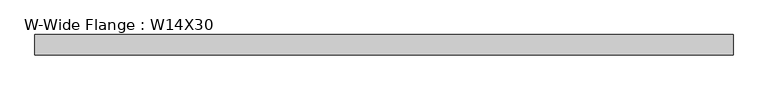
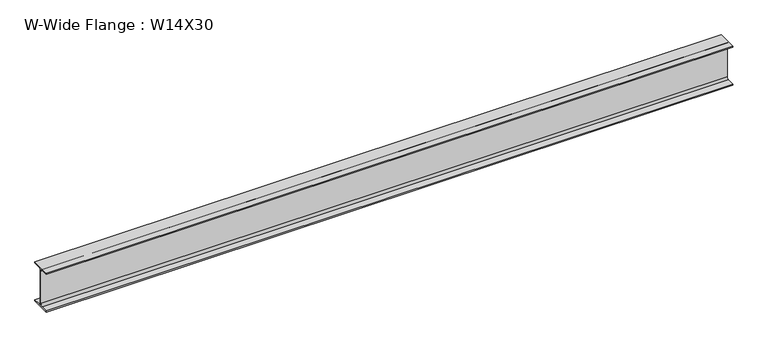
"""IFC4 building model written with IfcOpenShell, lengths in millimetres: beam geometry, W-Wide Flange : W14X30."""

from ifc_helpers import new_model, si_unit, point, frame, frame_2d, origin, place, context, project, spatial, polyline, circle_curve, trimmed, segment, composite_curve, outline, extrude, source, transform, mapped, element, save


def w_wide_flange_w14x30_12b98172(model_context):
    return source(origin(), model_context, "Body", "SweptSolid", [
        extrude(outline(composite_curve([segment(polyline([(85.471, -165.481), (85.471, -175.26), (-85.471, -175.26), (-85.471, -165.481), (-22.225, -165.481)]), True, "CONTINUOUS"), segment(trimmed(circle_curve(frame_2d((-22.225, -146.685)), 18.796), [point((-22.225, -165.481))], [point((-3.429, -146.685))], True, "CARTESIAN"), True, "CONTINUOUS"), segment(polyline([(-3.429, -146.685), (-3.429, 146.685)]), True, "CONTINUOUS"), segment(trimmed(circle_curve(frame_2d((-22.225, 146.685)), 18.796), [point((-3.429, 146.685))], [point((-22.225, 165.481))], True, "CARTESIAN"), True, "CONTINUOUS"), segment(polyline([(-22.225, 165.481), (-85.471, 165.481), (-85.471, 175.26), (85.471, 175.26), (85.471, 165.481), (22.225, 165.481)]), True, "CONTINUOUS"), segment(trimmed(circle_curve(frame_2d((22.225, 146.685)), 18.796), [point((22.225, 165.481))], [point((3.429, 146.685))], True, "CARTESIAN"), True, "CONTINUOUS"), segment(polyline([(3.429, 146.685), (3.429, -146.685)]), True, "CONTINUOUS"), segment(trimmed(circle_curve(frame_2d((22.225, -146.685)), 18.796), [point((3.429, -146.685))], [point((22.225, -165.481))], True, "CARTESIAN"), True, "CONTINUOUS"), segment(polyline([(22.225, -165.481), (85.471, -165.481)]), True, "CONTINUOUS")], self_intersect=False)), frame((-2934.208, 0.0, 0.0), z_axis=(1.0, 0.0, 0.0), x_axis=(0.0, 1.0, 0.0)), (0.0, 0.0, 1.0), 5868.416),
    ])


if __name__ == "__main__":
    model = new_model("IFC4")
    model_context = context("Model", 3, world=origin())
    ifc_project = project(units=[si_unit("LENGTHUNIT", "METRE", prefix="MILLI")], contexts=[model_context])
    site = spatial("IfcSite", under=ifc_project)
    building = spatial("IfcBuilding", under=site)
    placement = place(None, origin())
    w_wide_flange_w14x30_shape = w_wide_flange_w14x30_12b98172(model_context)
    element("IfcBeam", 1, ObjectType="W-Wide Flange : W14X30", at=placement, inside=building, context=model_context, shape_type="MappedRepresentation", body=[
        mapped(w_wide_flange_w14x30_shape, transform((0.0, 0.0, 0.0), x_axis=(1.0, 0.0, 0.0), y_axis=(0.0, 1.0, 0.0), z_axis=(0.0, 0.0, 1.0))),
    ])
    save(model, "model.ifc")
